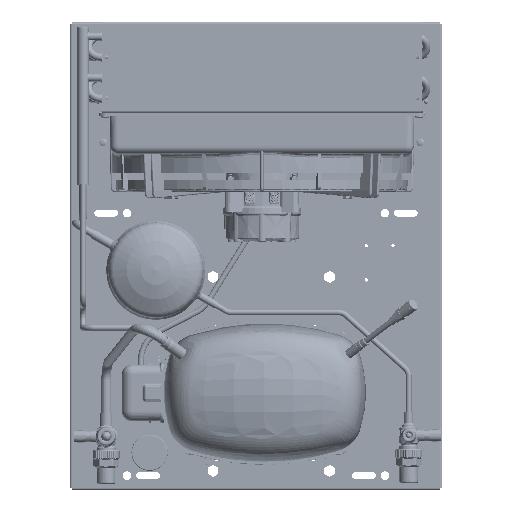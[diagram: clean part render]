
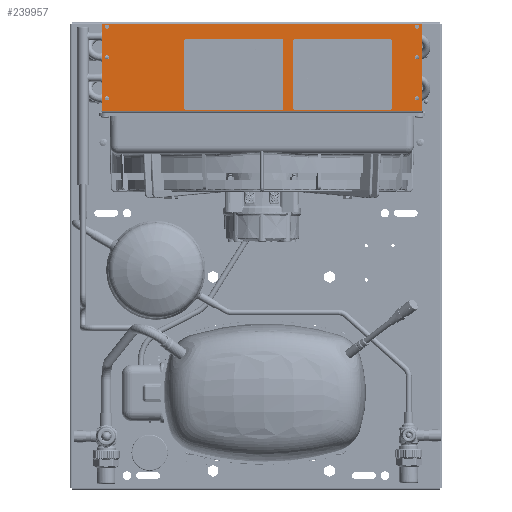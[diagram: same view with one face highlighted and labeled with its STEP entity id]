
A CAD part, top view. The second image highlights one B-rep face of the part: STEP entity #239957.
In plain terms, the highlighted planar face has unit normal (0, 0, 1).
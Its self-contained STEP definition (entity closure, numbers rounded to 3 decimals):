
#74667=LINE('',#313656,#83720);
#74680=LINE('',#313703,#83733);
#74684=LINE('',#313712,#83737);
#74686=LINE('',#313716,#83739);
#83720=VECTOR('',#271820,1000.);
#83733=VECTOR('',#271867,1000.);
#83737=VECTOR('',#271877,1000.);
#83739=VECTOR('',#271883,1000.);
#95247=ORIENTED_EDGE('',*,*,#151673,.F.);
#95248=ORIENTED_EDGE('',*,*,#151674,.F.);
#95249=ORIENTED_EDGE('',*,*,#151675,.F.);
#95250=ORIENTED_EDGE('',*,*,#151676,.F.);
#95251=ORIENTED_EDGE('',*,*,#151677,.F.);
#95252=ORIENTED_EDGE('',*,*,#151678,.F.);
#95253=ORIENTED_EDGE('',*,*,#151665,.T.);
#95254=ORIENTED_EDGE('',*,*,#151670,.F.);
#95255=ORIENTED_EDGE('',*,*,#151642,.F.);
#95256=ORIENTED_EDGE('',*,*,#151672,.T.);
#151642=EDGE_CURVE('',#180359,#180360,#74667,.T.);
#151665=EDGE_CURVE('',#180377,#180375,#74680,.T.);
#151670=EDGE_CURVE('',#180360,#180375,#74684,.T.);
#151672=EDGE_CURVE('',#180359,#180377,#74686,.T.);
#151673=EDGE_CURVE('',#180379,#180379,#199288,.T.);
#151674=EDGE_CURVE('',#180380,#180380,#199289,.T.);
#151675=EDGE_CURVE('',#180381,#180381,#199290,.T.);
#151676=EDGE_CURVE('',#180382,#180382,#199291,.T.);
#151677=EDGE_CURVE('',#180383,#180383,#199292,.T.);
#151678=EDGE_CURVE('',#180384,#180384,#199293,.T.);
#180359=VERTEX_POINT('',#313655);
#180360=VERTEX_POINT('',#313657);
#180375=VERTEX_POINT('',#313701);
#180377=VERTEX_POINT('',#313704);
#180379=VERTEX_POINT('',#313719);
#180380=VERTEX_POINT('',#313721);
#180381=VERTEX_POINT('',#313723);
#180382=VERTEX_POINT('',#313725);
#180383=VERTEX_POINT('',#313727);
#180384=VERTEX_POINT('',#313729);
#199288=CIRCLE('',#252812,2.25);
#199289=CIRCLE('',#252813,2.25);
#199290=CIRCLE('',#252814,2.25);
#199291=CIRCLE('',#252815,2.25);
#199292=CIRCLE('',#252816,2.25);
#199293=CIRCLE('',#252817,2.25);
#206741=EDGE_LOOP('',(#95247));
#206742=EDGE_LOOP('',(#95248));
#206743=EDGE_LOOP('',(#95249));
#206744=EDGE_LOOP('',(#95250));
#206745=EDGE_LOOP('',(#95251));
#206746=EDGE_LOOP('',(#95252));
#206747=EDGE_LOOP('',(#95253,#95254,#95255,#95256));
#221222=FACE_BOUND('',#206741,.T.);
#221223=FACE_BOUND('',#206742,.T.);
#221224=FACE_BOUND('',#206743,.T.);
#221225=FACE_BOUND('',#206744,.T.);
#221226=FACE_BOUND('',#206745,.T.);
#221227=FACE_BOUND('',#206746,.T.);
#221228=FACE_BOUND('',#206747,.T.);
#234151=PLANE('',#252811);
#239957=ADVANCED_FACE('',(#221222,#221223,#221224,#221225,#221226,#221227,
#221228),#234151,.F.);
#252811=AXIS2_PLACEMENT_3D('',#313717,#271884,#271885);
#252812=AXIS2_PLACEMENT_3D('',#313718,#271886,#271887);
#252813=AXIS2_PLACEMENT_3D('',#313720,#271888,#271889);
#252814=AXIS2_PLACEMENT_3D('',#313722,#271890,#271891);
#252815=AXIS2_PLACEMENT_3D('',#313724,#271892,#271893);
#252816=AXIS2_PLACEMENT_3D('',#313726,#271894,#271895);
#252817=AXIS2_PLACEMENT_3D('',#313728,#271896,#271897);
#271820=DIRECTION('',(1.,0.,0.));
#271867=DIRECTION('',(1.,0.,0.));
#271877=DIRECTION('',(0.,-1.,0.));
#271883=DIRECTION('',(0.,-1.,0.));
#271884=DIRECTION('',(0.,0.,-1.));
#271885=DIRECTION('',(-1.,0.,0.));
#271886=DIRECTION('',(0.,0.,1.));
#271887=DIRECTION('',(0.,1.,0.));
#271888=DIRECTION('',(0.,0.,1.));
#271889=DIRECTION('',(0.,1.,0.));
#271890=DIRECTION('',(0.,0.,1.));
#271891=DIRECTION('',(0.,1.,0.));
#271892=DIRECTION('',(0.,0.,1.));
#271893=DIRECTION('',(0.,1.,0.));
#271894=DIRECTION('',(0.,0.,1.));
#271895=DIRECTION('',(0.,1.,0.));
#271896=DIRECTION('',(0.,0.,1.));
#271897=DIRECTION('',(0.,1.,0.));
#313655=CARTESIAN_POINT('',(-45.5,167.5,0.));
#313656=CARTESIAN_POINT('',(-47.5,167.5,0.));
#313657=CARTESIAN_POINT('',(45.5,167.5,0.));
#313701=CARTESIAN_POINT('',(45.5,-167.5,0.));
#313703=CARTESIAN_POINT('',(-47.5,-167.5,0.));
#313704=CARTESIAN_POINT('',(-45.5,-167.5,0.));
#313712=CARTESIAN_POINT('',(45.5,167.5,0.));
#313716=CARTESIAN_POINT('',(-45.5,167.5,0.));
#313717=CARTESIAN_POINT('',(-47.5,167.5,0.));
#313718=CARTESIAN_POINT('',(42.5,162.5,0.));
#313719=CARTESIAN_POINT('',(42.5,164.75,0.));
#313720=CARTESIAN_POINT('',(42.5,-162.5,0.));
#313721=CARTESIAN_POINT('',(42.5,-160.25,0.));
#313722=CARTESIAN_POINT('',(-32.5,-162.5,0.));
#313723=CARTESIAN_POINT('',(-32.5,-160.25,0.));
#313724=CARTESIAN_POINT('',(-32.5,162.5,0.));
#313725=CARTESIAN_POINT('',(-32.5,164.75,0.));
#313726=CARTESIAN_POINT('',(10.5,-162.5,0.));
#313727=CARTESIAN_POINT('',(10.5,-160.25,0.));
#313728=CARTESIAN_POINT('',(10.5,162.5,0.));
#313729=CARTESIAN_POINT('',(10.5,164.75,0.));
